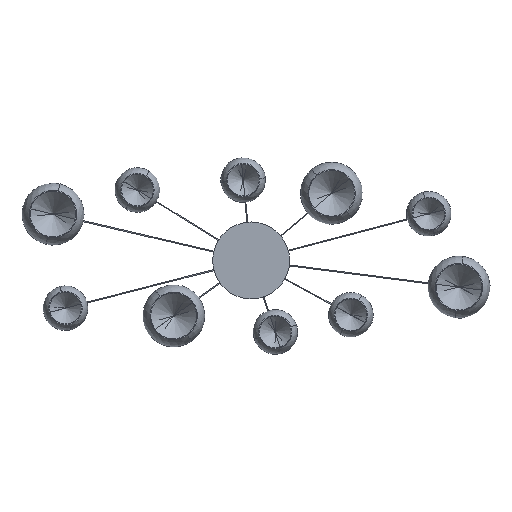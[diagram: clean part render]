
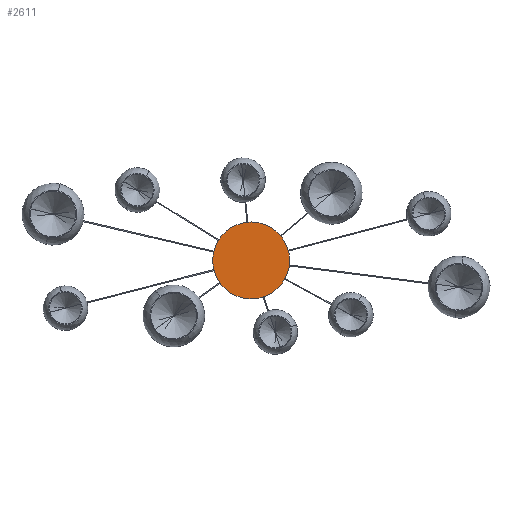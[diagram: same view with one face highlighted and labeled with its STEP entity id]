
A CAD part, front view. The second image highlights one B-rep face of the part: STEP entity #2611.
In plain terms, the highlighted planar face has unit normal (0, -1, 0).
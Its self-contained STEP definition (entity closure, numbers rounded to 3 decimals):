
#321 = CARTESIAN_POINT ( 'NONE',  ( 0., -17., -155. ) ) ;
#344 = DIRECTION ( 'NONE',  ( 0., 0., -1. ) ) ;
#473 = ORIENTED_EDGE ( 'NONE', *, *, #9095, .T. ) ;
#759 = CIRCLE ( 'NONE', #6288, 155. ) ;
#1237 = DIRECTION ( 'NONE',  ( 0., 0., -1. ) ) ;
#1752 = EDGE_LOOP ( 'NONE', ( #9104, #473 ) ) ;
#1930 = DIRECTION ( 'NONE',  ( 0., -1., 0. ) ) ;
#2094 = CARTESIAN_POINT ( 'NONE',  ( 0., -17., 155. ) ) ;
#2611 = ADVANCED_FACE ( 'NONE', ( #7146 ), #7980, .T. ) ;
#2711 = DIRECTION ( 'NONE',  ( 0., 0., -1. ) ) ;
#3144 = AXIS2_PLACEMENT_3D ( 'NONE', #7919, #7127, #344 ) ;
#3844 = VERTEX_POINT ( 'NONE', #321 ) ;
#4254 = DIRECTION ( 'NONE',  ( 0., -1., 0. ) ) ;
#6288 = AXIS2_PLACEMENT_3D ( 'NONE', #7407, #4254, #2711 ) ;
#7127 = DIRECTION ( 'NONE',  ( 0., -1., 0. ) ) ;
#7146 = FACE_OUTER_BOUND ( 'NONE', #1752, .T. ) ;
#7247 = AXIS2_PLACEMENT_3D ( 'NONE', #9447, #1930, #1237 ) ;
#7407 = CARTESIAN_POINT ( 'NONE',  ( 0., -17., 0. ) ) ;
#7864 = EDGE_CURVE ( 'NONE', #3844, #9587, #8198, .T. ) ;
#7919 = CARTESIAN_POINT ( 'NONE',  ( 0., -17., 0. ) ) ;
#7980 = PLANE ( 'NONE',  #7247 ) ;
#8198 = CIRCLE ( 'NONE', #3144, 155. ) ;
#9095 = EDGE_CURVE ( 'NONE', #9587, #3844, #759, .T. ) ;
#9104 = ORIENTED_EDGE ( 'NONE', *, *, #7864, .T. ) ;
#9447 = CARTESIAN_POINT ( 'NONE',  ( 155., -17., 0. ) ) ;
#9587 = VERTEX_POINT ( 'NONE', #2094 ) ;
